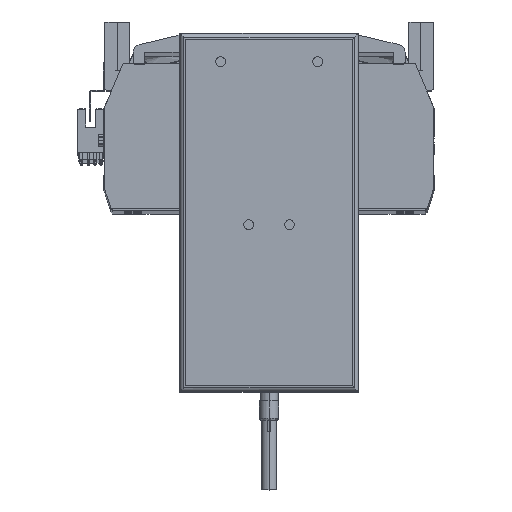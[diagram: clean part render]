
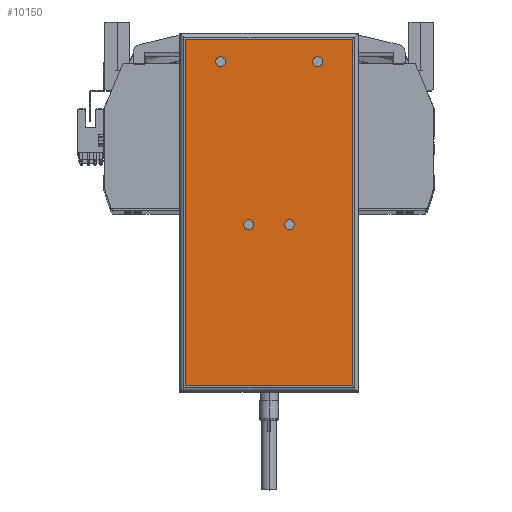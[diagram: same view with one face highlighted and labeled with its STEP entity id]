
A CAD part, top view. The second image highlights one B-rep face of the part: STEP entity #10150.
In plain terms, the highlighted planar face has unit normal (0, 0, 1) as drawn and (0, 0, -1) by its records, which use the part's own axes.
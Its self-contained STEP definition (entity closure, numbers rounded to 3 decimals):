
#195 = EDGE_CURVE ( 'NONE', #20243, #30803, #33927, .T. ) ;
#308 = AXIS2_PLACEMENT_3D ( 'NONE', #32268, #11492, #43791 ) ;
#360 = DIRECTION ( 'NONE',  ( 0., 0., -1. ) ) ;
#415 = EDGE_LOOP ( 'NONE', ( #3819, #10539 ) ) ;
#513 = CIRCLE ( 'NONE', #47810, 2.5 ) ;
#546 = CARTESIAN_POINT ( 'NONE',  ( -10.5, -6.25, 0. ) ) ;
#1158 = EDGE_CURVE ( 'NONE', #24420, #5328, #12880, .T. ) ;
#1713 = CARTESIAN_POINT ( 'NONE',  ( -46., -92.25, 0. ) ) ;
#1799 = AXIS2_PLACEMENT_3D ( 'NONE', #17660, #45855, #5066 ) ;
#1867 = DIRECTION ( 'NONE',  ( -1., 0., 0. ) ) ;
#2104 = CIRCLE ( 'NONE', #7162, 2.5 ) ;
#2700 = FACE_BOUND ( 'NONE', #6836, .T. ) ;
#3033 = DIRECTION ( 'NONE',  ( 0., 0., -1. ) ) ;
#3114 = AXIS2_PLACEMENT_3D ( 'NONE', #50444, #41932, #1867 ) ;
#3819 = ORIENTED_EDGE ( 'NONE', *, *, #12419, .F. ) ;
#4259 = DIRECTION ( 'NONE',  ( -1., 0., 0. ) ) ;
#4479 = ORIENTED_EDGE ( 'NONE', *, *, #20951, .F. ) ;
#5066 = DIRECTION ( 'NONE',  ( -1., 0., 0. ) ) ;
#5328 = VERTEX_POINT ( 'NONE', #16155 ) ;
#5544 = ORIENTED_EDGE ( 'NONE', *, *, #33245, .F. ) ;
#5748 = VERTEX_POINT ( 'NONE', #33299 ) ;
#6002 = CARTESIAN_POINT ( 'NONE',  ( -46., -89.25, 0. ) ) ;
#6370 = EDGE_LOOP ( 'NONE', ( #34922, #22240, #40233, #34869 ) ) ;
#6836 = EDGE_LOOP ( 'NONE', ( #25625, #4479 ) ) ;
#7105 = EDGE_LOOP ( 'NONE', ( #11199, #5544 ) ) ;
#7162 = AXIS2_PLACEMENT_3D ( 'NONE', #30602, #34653, #50779 ) ;
#7583 = VERTEX_POINT ( 'NONE', #29305 ) ;
#9483 = PLANE ( 'NONE',  #32717 ) ;
#10150 = ADVANCED_FACE ( 'NONE', ( #51992, #32595, #2700, #14066, #48142 ), #9483, .F. ) ;
#10539 = ORIENTED_EDGE ( 'NONE', *, *, #1158, .F. ) ;
#10632 = VERTEX_POINT ( 'NONE', #25281 ) ;
#10725 = CIRCLE ( 'NONE', #36534, 2.5 ) ;
#11199 = ORIENTED_EDGE ( 'NONE', *, *, #30253, .F. ) ;
#11492 = DIRECTION ( 'NONE',  ( 0., 0., -1. ) ) ;
#11518 = CARTESIAN_POINT ( 'NONE',  ( -10.5, -6.25, 0. ) ) ;
#11687 = ORIENTED_EDGE ( 'NONE', *, *, #26937, .F. ) ;
#12419 = EDGE_CURVE ( 'NONE', #5328, #24420, #10725, .T. ) ;
#12880 = CIRCLE ( 'NONE', #23238, 2.5 ) ;
#13182 = CIRCLE ( 'NONE', #14050, 2.5 ) ;
#13450 = VECTOR ( 'NONE', #27461, 1000. ) ;
#14050 = AXIS2_PLACEMENT_3D ( 'NONE', #26058, #42663, #18347 ) ;
#14066 = FACE_BOUND ( 'NONE', #38550, .T. ) ;
#14215 = VECTOR ( 'NONE', #30691, 1000. ) ;
#14473 = CARTESIAN_POINT ( 'NONE',  ( -8., -6.25, 0. ) ) ;
#15272 = CIRCLE ( 'NONE', #1799, 2.5 ) ;
#16155 = CARTESIAN_POINT ( 'NONE',  ( -13., -6.25, 0. ) ) ;
#17660 = CARTESIAN_POINT ( 'NONE',  ( -25., 77.75, 0. ) ) ;
#18347 = DIRECTION ( 'NONE',  ( -1., 0., 0. ) ) ;
#18582 = CARTESIAN_POINT ( 'NONE',  ( -46., 89.25, 0. ) ) ;
#18948 = VECTOR ( 'NONE', #43336, 1000. ) ;
#20165 = DIRECTION ( 'NONE',  ( 0., 0., -1. ) ) ;
#20243 = VERTEX_POINT ( 'NONE', #52562 ) ;
#20951 = EDGE_CURVE ( 'NONE', #37348, #52120, #13182, .T. ) ;
#21681 = LINE ( 'NONE', #18582, #40717 ) ;
#22240 = ORIENTED_EDGE ( 'NONE', *, *, #195, .T. ) ;
#22618 = CARTESIAN_POINT ( 'NONE',  ( -43., -89.25, 0. ) ) ;
#22822 = EDGE_CURVE ( 'NONE', #33065, #10632, #44798, .T. ) ;
#23238 = AXIS2_PLACEMENT_3D ( 'NONE', #11518, #3033, #39582 ) ;
#24420 = VERTEX_POINT ( 'NONE', #14473 ) ;
#24719 = EDGE_CURVE ( 'NONE', #52120, #37348, #51695, .T. ) ;
#24727 = CARTESIAN_POINT ( 'NONE',  ( 22.5, 77.75, 0. ) ) ;
#25281 = CARTESIAN_POINT ( 'NONE',  ( -27.5, 77.75, 0. ) ) ;
#25625 = ORIENTED_EDGE ( 'NONE', *, *, #24719, .F. ) ;
#25887 = DIRECTION ( 'NONE',  ( 0., 0., 1. ) ) ;
#26058 = CARTESIAN_POINT ( 'NONE',  ( 10.5, -6.25, 0. ) ) ;
#26937 = EDGE_CURVE ( 'NONE', #10632, #33065, #15272, .T. ) ;
#27461 = DIRECTION ( 'NONE',  ( 0., 1., 0. ) ) ;
#29305 = CARTESIAN_POINT ( 'NONE',  ( -43., 89.25, 0. ) ) ;
#29683 = VERTEX_POINT ( 'NONE', #42579 ) ;
#30253 = EDGE_CURVE ( 'NONE', #37610, #29683, #513, .T. ) ;
#30602 = CARTESIAN_POINT ( 'NONE',  ( 25., 77.75, 0. ) ) ;
#30691 = DIRECTION ( 'NONE',  ( -1., 0., 0. ) ) ;
#30803 = VERTEX_POINT ( 'NONE', #22618 ) ;
#32268 = CARTESIAN_POINT ( 'NONE',  ( -25., 77.75, 0. ) ) ;
#32595 = FACE_BOUND ( 'NONE', #415, .T. ) ;
#32717 = AXIS2_PLACEMENT_3D ( 'NONE', #1713, #25887, #33991 ) ;
#33065 = VERTEX_POINT ( 'NONE', #40703 ) ;
#33245 = EDGE_CURVE ( 'NONE', #29683, #37610, #2104, .T. ) ;
#33299 = CARTESIAN_POINT ( 'NONE',  ( 43., 89.25, 0. ) ) ;
#33927 = LINE ( 'NONE', #6002, #14215 ) ;
#33991 = DIRECTION ( 'NONE',  ( 1., 0., 0. ) ) ;
#34324 = CARTESIAN_POINT ( 'NONE',  ( 8., -6.25, 0. ) ) ;
#34653 = DIRECTION ( 'NONE',  ( 0., 0., -1. ) ) ;
#34869 = ORIENTED_EDGE ( 'NONE', *, *, #51166, .T. ) ;
#34922 = ORIENTED_EDGE ( 'NONE', *, *, #35156, .T. ) ;
#35073 = LINE ( 'NONE', #43373, #13450 ) ;
#35156 = EDGE_CURVE ( 'NONE', #5748, #20243, #38057, .T. ) ;
#36534 = AXIS2_PLACEMENT_3D ( 'NONE', #546, #360, #4259 ) ;
#37348 = VERTEX_POINT ( 'NONE', #47249 ) ;
#37610 = VERTEX_POINT ( 'NONE', #24727 ) ;
#38057 = LINE ( 'NONE', #47252, #18948 ) ;
#38550 = EDGE_LOOP ( 'NONE', ( #11687, #43367 ) ) ;
#39582 = DIRECTION ( 'NONE',  ( -1., 0., 0. ) ) ;
#40233 = ORIENTED_EDGE ( 'NONE', *, *, #42483, .T. ) ;
#40703 = CARTESIAN_POINT ( 'NONE',  ( -22.5, 77.75, 0. ) ) ;
#40717 = VECTOR ( 'NONE', #51033, 1000. ) ;
#41932 = DIRECTION ( 'NONE',  ( 0., 0., -1. ) ) ;
#42483 = EDGE_CURVE ( 'NONE', #30803, #7583, #35073, .T. ) ;
#42579 = CARTESIAN_POINT ( 'NONE',  ( 27.5, 77.75, 0. ) ) ;
#42663 = DIRECTION ( 'NONE',  ( 0., 0., -1. ) ) ;
#43336 = DIRECTION ( 'NONE',  ( 0., -1., 0. ) ) ;
#43367 = ORIENTED_EDGE ( 'NONE', *, *, #22822, .F. ) ;
#43373 = CARTESIAN_POINT ( 'NONE',  ( -43., -92.25, 0. ) ) ;
#43791 = DIRECTION ( 'NONE',  ( -1., 0., 0. ) ) ;
#44260 = DIRECTION ( 'NONE',  ( -1., 0., 0. ) ) ;
#44434 = CARTESIAN_POINT ( 'NONE',  ( 25., 77.75, 0. ) ) ;
#44798 = CIRCLE ( 'NONE', #308, 2.5 ) ;
#45855 = DIRECTION ( 'NONE',  ( 0., 0., -1. ) ) ;
#47249 = CARTESIAN_POINT ( 'NONE',  ( 13., -6.25, 0. ) ) ;
#47252 = CARTESIAN_POINT ( 'NONE',  ( 43., -92.25, 0. ) ) ;
#47810 = AXIS2_PLACEMENT_3D ( 'NONE', #44434, #20165, #44260 ) ;
#48142 = FACE_BOUND ( 'NONE', #7105, .T. ) ;
#50444 = CARTESIAN_POINT ( 'NONE',  ( 10.5, -6.25, 0. ) ) ;
#50779 = DIRECTION ( 'NONE',  ( -1., 0., 0. ) ) ;
#51033 = DIRECTION ( 'NONE',  ( 1., 0., 0. ) ) ;
#51166 = EDGE_CURVE ( 'NONE', #7583, #5748, #21681, .T. ) ;
#51695 = CIRCLE ( 'NONE', #3114, 2.5 ) ;
#51992 = FACE_OUTER_BOUND ( 'NONE', #6370, .T. ) ;
#52120 = VERTEX_POINT ( 'NONE', #34324 ) ;
#52562 = CARTESIAN_POINT ( 'NONE',  ( 43., -89.25, 0. ) ) ;
